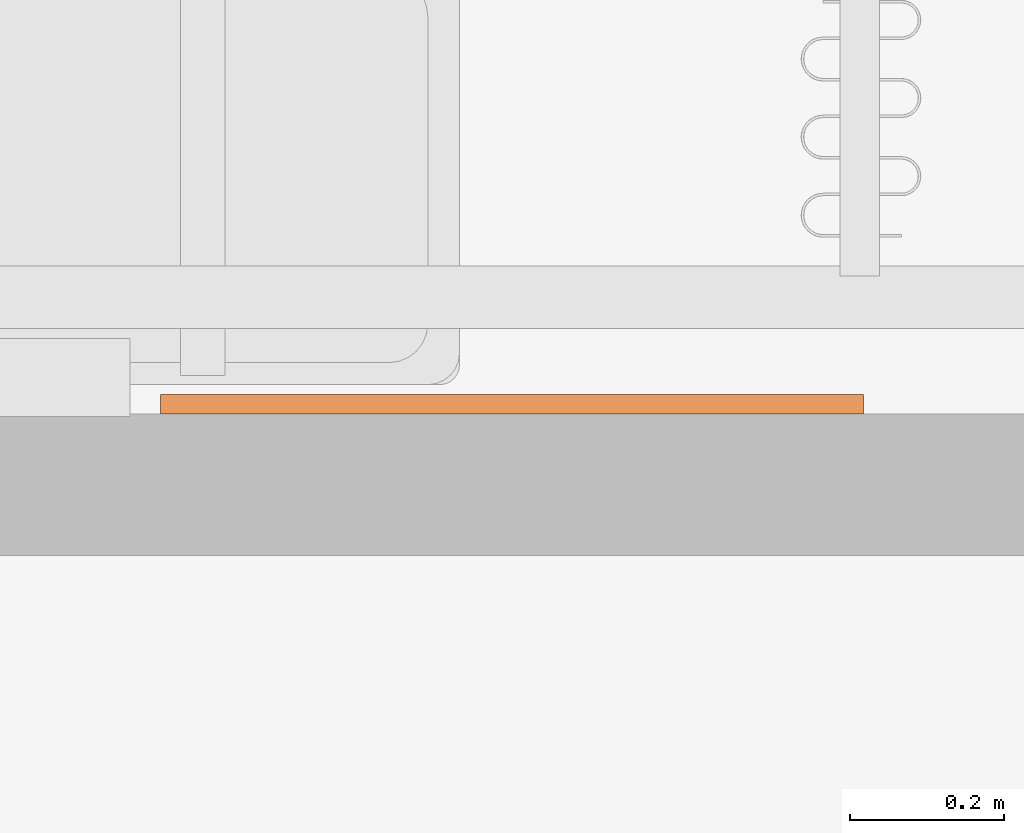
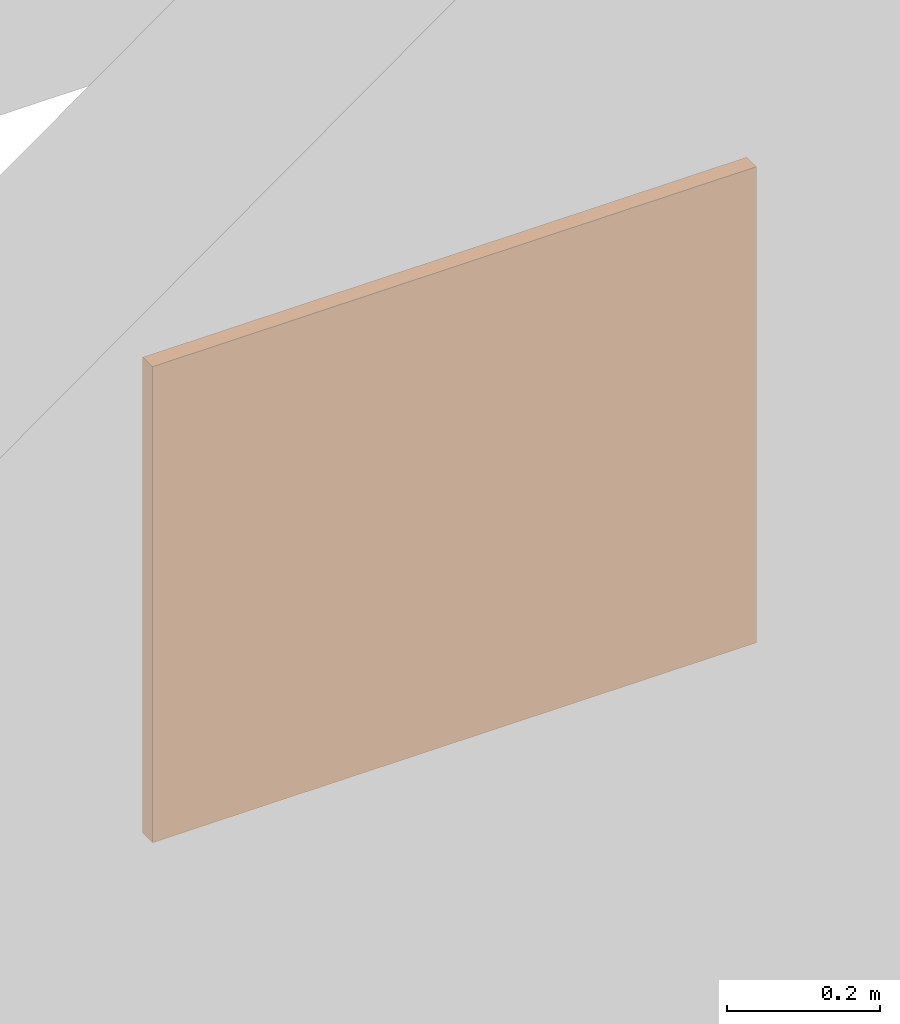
# One storey, part 47 of 142: 1 proxy.
"""IFC2X3 building model written with IfcOpenShell, lengths in feet."""

from ifc_helpers import new_model, entity, si_unit, converted_unit, derived_unit, direction, frame, origin, origin_2d_with_axis, place, context, subcontext, project, spatial, polyline, rectangle, outline, extrude, source, transform, mapped, type_object, type_shapes, element, save


model = new_model("IFC2X3")

# Units and contexts
model_context = context("Model", 3, precision=0.0001, world=origin(), true_north=direction((6.12303176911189e-17, 1.0)))
body_context = subcontext(model_context, "Body", "Model", "MODEL_VIEW")
ifc_project = project(units=[converted_unit("LENGTHUNIT", "FOOT", entity("IfcRatioMeasure", 0.3048), si_unit("LENGTHUNIT", "METRE"), dimensions=[1, 0, 0, 0, 0, 0, 0]), converted_unit("AREAUNIT", "SQUARE FOOT", entity("IfcRatioMeasure", 0.09290304), si_unit("AREAUNIT", "SQUARE_METRE"), dimensions=[2, 0, 0, 0, 0, 0, 0]), converted_unit("VOLUMEUNIT", "CUBIC FOOT", entity("IfcRatioMeasure", 0.028316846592), si_unit("VOLUMEUNIT", "CUBIC_METRE"), dimensions=[3, 0, 0, 0, 0, 0, 0]), converted_unit("PLANEANGLEUNIT", "DEGREE", entity("IfcRatioMeasure", 0.0174532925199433), si_unit("PLANEANGLEUNIT", "RADIAN"), dimensions=[0, 0, 0, 0, 0, 0, 0]), si_unit("MASSUNIT", "GRAM", prefix="KILO"), derived_unit("MASSDENSITYUNIT", [(si_unit("MASSUNIT", "GRAM", prefix="KILO"), 1), (si_unit("LENGTHUNIT", "METRE"), -3)]), si_unit("TIMEUNIT", "SECOND"), si_unit("FREQUENCYUNIT", "HERTZ"), si_unit("THERMODYNAMICTEMPERATUREUNIT", "DEGREE_CELSIUS"), derived_unit("THERMALTRANSMITTANCEUNIT", [(si_unit("MASSUNIT", "GRAM", prefix="KILO"), 1), (si_unit("THERMODYNAMICTEMPERATUREUNIT", "KELVIN"), -1), (si_unit("TIMEUNIT", "SECOND"), -3)]), derived_unit("VOLUMETRICFLOWRATEUNIT", [(si_unit("LENGTHUNIT", "METRE"), 3), (si_unit("TIMEUNIT", "SECOND"), -1)]), si_unit("ELECTRICCURRENTUNIT", "AMPERE"), si_unit("ELECTRICVOLTAGEUNIT", "VOLT"), si_unit("POWERUNIT", "WATT"), si_unit("FORCEUNIT", "NEWTON"), si_unit("ILLUMINANCEUNIT", "LUX"), si_unit("LUMINOUSFLUXUNIT", "LUMEN"), si_unit("LUMINOUSINTENSITYUNIT", "CANDELA"), derived_unit("USERDEFINED", [(si_unit("MASSUNIT", "GRAM", prefix="KILO"), -1), (si_unit("LENGTHUNIT", "METRE"), -2), (si_unit("TIMEUNIT", "SECOND"), 3), (si_unit("LUMINOUSFLUXUNIT", "LUMEN"), 1)]), derived_unit("LINEARVELOCITYUNIT", [(si_unit("LENGTHUNIT", "METRE"), 1), (si_unit("TIMEUNIT", "SECOND"), -1)]), si_unit("PRESSUREUNIT", "PASCAL"), derived_unit("USERDEFINED", [(si_unit("LENGTHUNIT", "METRE"), -2), (si_unit("MASSUNIT", "GRAM", prefix="KILO"), 1), (si_unit("TIMEUNIT", "SECOND"), -2)])], contexts=[model_context])

# Site, building, storey, space
site_placement = place(None, origin())
site = spatial("IfcSite", under=ifc_project, at=site_placement, Name="Default", CompositionType="ELEMENT")
building_placement = place(site_placement, origin())
building = spatial("IfcBuilding", under=site, at=building_placement, Name="OUTPATIENT / PACT CLINIC (Ch. 265)", CompositionType="ELEMENT")
storey_placement = place(building_placement, origin())
storey = spatial("IfcBuildingStorey", under=building, at=storey_placement, Name="LEVEL 1", CompositionType="ELEMENT", Elevation=0.0)
space_placement = place(storey_placement, origin())
space = spatial("IfcSpace", under=storey, at=space_placement, Name="EXPA01", CompositionType="ELEMENT", InteriorOrExteriorSpace="INTERNAL")

# Proxy
building_element_proxy_type = type_object("IfcBuildingElementProxyType", Name="F3025 - Board, Bulletin, Wood Framed", PredefinedType="NOTDEFINED")
shared_shape = source(origin(), body_context, "Body", "SweptSolid", [
    extrude(rectangle(XDim=0.0416666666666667, YDim=2.74999999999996, at=origin_2d_with_axis()), frame((0.0, -0.020833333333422, 0.124999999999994), z_axis=(0.0, 0.0, 1.0), x_axis=(0.0, 1.0, 0.0)), (0.0, 0.0, 1.0), 2.25000000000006),
    extrude(outline(polyline([(-1.49999999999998, -1.25), (1.49999999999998, -1.25), (1.49999999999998, 1.25), (-1.49999999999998, 1.25), (-1.49999999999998, -1.25)]), holes=[polyline([(-1.37499999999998, -1.125), (-1.37499999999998, 1.12500000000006), (1.37499999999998, 1.12500000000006), (1.37499999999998, -1.125), (-1.37499999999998, -1.125)])]), frame((0.0, -0.0833333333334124, 1.25), z_axis=(0.0, 1.0, 0.0), x_axis=(-1.0, 0.0, 0.0)), (0.0, 0.0, 1.0), 0.0833333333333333),
])
type_shapes(building_element_proxy_type, [shared_shape])
proxy_placement = place(space_placement, frame((398.452893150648, -897.024686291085, 4.0), z_axis=(0.0, 0.0, 1.0), x_axis=(-1.0, 0.0, 0.0)))
element("IfcBuildingElementProxy", 1, at=proxy_placement, inside=space, type_object=building_element_proxy_type, Name="F3025 - Board, Bulletin, Wood Framed1:F3025 - Board, Bulletin, Wood Framed", ObjectType="F3025 - Board, Bulletin, Wood Framed", context=body_context, shape_type="MappedRepresentation", body=[
    mapped(shared_shape, transform((0.0, 0.0, 0.0), scale=1.0)),
])

save(model, "model.ifc")
